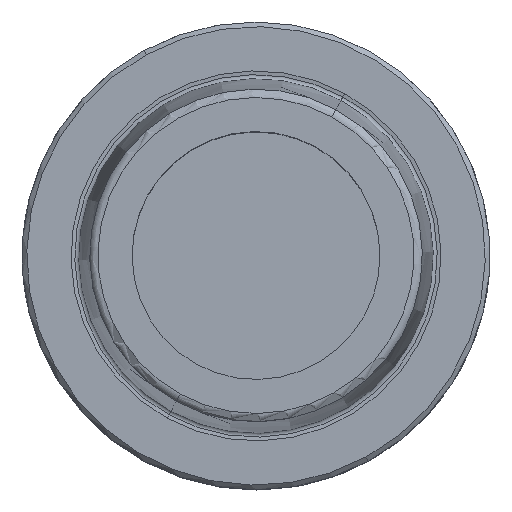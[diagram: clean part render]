
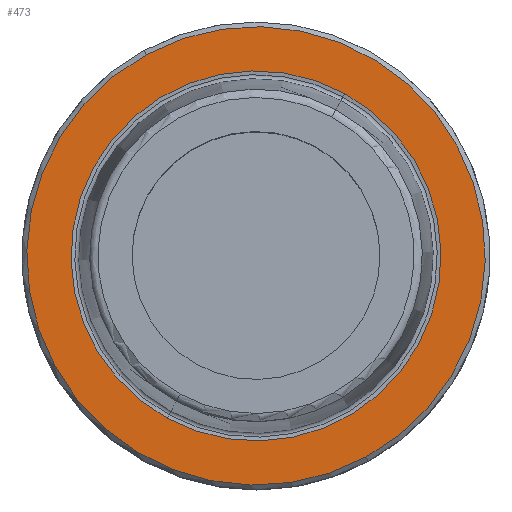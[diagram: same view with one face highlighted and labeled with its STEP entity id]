
A CAD part, top view. The second image highlights one B-rep face of the part: STEP entity #473.
In plain terms, the highlighted planar face has unit normal (0, 0, 1).
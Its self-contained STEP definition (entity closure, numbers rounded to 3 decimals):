
#410=AXIS2_PLACEMENT_3D('Circle Axis2P3D',#408,#409,$) ;
#436=AXIS2_PLACEMENT_3D('Circle Axis2P3D',#434,#435,$) ;
#449=AXIS2_PLACEMENT_3D('Plane Axis2P3D',#446,#447,#448) ;
#453=AXIS2_PLACEMENT_3D('Circle Axis2P3D',#451,#452,$) ;
#462=AXIS2_PLACEMENT_3D('Circle Axis2P3D',#460,#461,$) ;
#408=CARTESIAN_POINT('Axis2P3D Location',(0.,0.,0.)) ;
#412=CARTESIAN_POINT('Vertex',(18.961,34.708,0.)) ;
#414=CARTESIAN_POINT('Vertex',(-18.961,-34.708,0.)) ;
#434=CARTESIAN_POINT('Axis2P3D Location',(0.,0.,0.)) ;
#446=CARTESIAN_POINT('Axis2P3D Location',(0.,-38.293,0.)) ;
#451=CARTESIAN_POINT('Axis2P3D Location',(0.,0.,0.)) ;
#455=CARTESIAN_POINT('Vertex',(23.492,-43.002,0.)) ;
#457=CARTESIAN_POINT('Vertex',(-23.492,43.002,0.)) ;
#460=CARTESIAN_POINT('Axis2P3D Location',(0.,0.,0.)) ;
#409=DIRECTION('Axis2P3D Direction',(0.,0.,1.)) ;
#435=DIRECTION('Axis2P3D Direction',(0.,0.,1.)) ;
#447=DIRECTION('Axis2P3D Direction',(0.,0.,-1.)) ;
#448=DIRECTION('Axis2P3D XDirection',(-1.,0.,0.)) ;
#452=DIRECTION('Axis2P3D Direction',(0.,0.,-1.)) ;
#461=DIRECTION('Axis2P3D Direction',(0.,0.,-1.)) ;
#466=ORIENTED_EDGE('',*,*,#459,.F.) ;
#467=ORIENTED_EDGE('',*,*,#464,.F.) ;
#470=ORIENTED_EDGE('',*,*,#416,.T.) ;
#471=ORIENTED_EDGE('',*,*,#438,.T.) ;
#472=FACE_BOUND('',#469,.T.) ;
#473=ADVANCED_FACE('NOCUT',(#468,#472),#450,.F.) ;
#411=CIRCLE('generated circle',#410,39.55) ;
#437=CIRCLE('generated circle',#436,39.55) ;
#454=CIRCLE('generated circle',#453,49.) ;
#463=CIRCLE('generated circle',#462,49.) ;
#416=EDGE_CURVE('',#413,#415,#411,.F.) ;
#438=EDGE_CURVE('',#415,#413,#437,.F.) ;
#459=EDGE_CURVE('',#456,#458,#454,.T.) ;
#464=EDGE_CURVE('',#458,#456,#463,.T.) ;
#465=EDGE_LOOP('',(#466,#467)) ;
#469=EDGE_LOOP('',(#470,#471)) ;
#468=FACE_OUTER_BOUND('',#465,.T.) ;
#450=PLANE('',#449) ;
#413=VERTEX_POINT('',#412) ;
#415=VERTEX_POINT('',#414) ;
#456=VERTEX_POINT('',#455) ;
#458=VERTEX_POINT('',#457) ;
